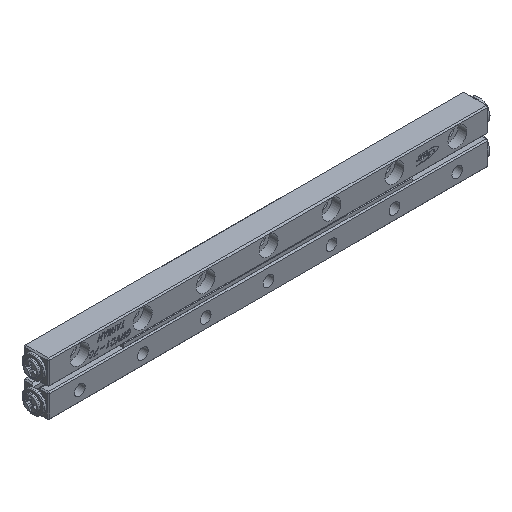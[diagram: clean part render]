
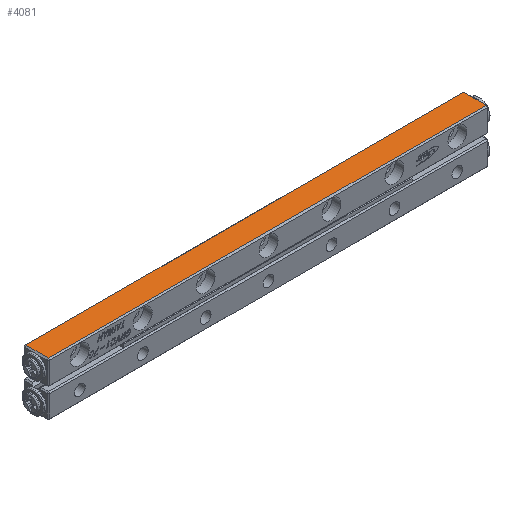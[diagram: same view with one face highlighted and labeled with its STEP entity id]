
A CAD part, isometric view. The second image highlights one B-rep face of the part: STEP entity #4081.
In plain terms, the highlighted planar face has unit normal (0, 0, 1) as drawn and (0, 0, -1) by its records, which use the part's own axes.
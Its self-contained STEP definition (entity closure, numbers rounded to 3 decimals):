
#2118 = ORIENTED_EDGE ( 'NONE', *, *, #13364, .T. ) ;
#2149 = EDGE_CURVE ( 'NONE', #15363, #10688, #17646, .T. ) ;
#2830 = LINE ( 'NONE', #10490, #9461 ) ;
#3154 = CARTESIAN_POINT ( 'NONE',  ( 34.8, -2., 0. ) ) ;
#3647 = DIRECTION ( 'NONE',  ( 0., 0., -1. ) ) ;
#4081 = ADVANCED_FACE ( 'NONE', ( #12951 ), #12822, .T. ) ;
#4162 = EDGE_CURVE ( 'NONE', #22047, #7645, #9432, .T. ) ;
#7130 = VECTOR ( 'NONE', #22155, 1000. ) ;
#7645 = VERTEX_POINT ( 'NONE', #13138 ) ;
#8603 = DIRECTION ( 'NONE',  ( 1., 0., 0. ) ) ;
#8680 = ORIENTED_EDGE ( 'NONE', *, *, #4162, .T. ) ;
#8878 = VECTOR ( 'NONE', #11227, 1000. ) ;
#9432 = LINE ( 'NONE', #16718, #23153 ) ;
#9461 = VECTOR ( 'NONE', #8603, 1000. ) ;
#10490 = CARTESIAN_POINT ( 'NONE',  ( -35., 1.8, 0. ) ) ;
#10688 = VERTEX_POINT ( 'NONE', #13747 ) ;
#11227 = DIRECTION ( 'NONE',  ( -1., 0., 0. ) ) ;
#11848 = EDGE_LOOP ( 'NONE', ( #14701, #24155, #2118, #8680 ) ) ;
#11981 = CARTESIAN_POINT ( 'NONE',  ( -34.8, -1.8, 0. ) ) ;
#12822 = PLANE ( 'NONE',  #21932 ) ;
#12951 = FACE_OUTER_BOUND ( 'NONE', #11848, .T. ) ;
#13138 = CARTESIAN_POINT ( 'NONE',  ( -34.8, 1.8, 0. ) ) ;
#13364 = EDGE_CURVE ( 'NONE', #10688, #22047, #15487, .T. ) ;
#13747 = CARTESIAN_POINT ( 'NONE',  ( 34.8, -1.8, 0. ) ) ;
#14701 = ORIENTED_EDGE ( 'NONE', *, *, #16195, .T. ) ;
#14837 = DIRECTION ( 'NONE',  ( 0., 1., 0. ) ) ;
#15080 = DIRECTION ( 'NONE',  ( 0., 1., 0. ) ) ;
#15203 = CARTESIAN_POINT ( 'NONE',  ( -35., -2., 0. ) ) ;
#15363 = VERTEX_POINT ( 'NONE', #19148 ) ;
#15487 = LINE ( 'NONE', #19262, #8878 ) ;
#16195 = EDGE_CURVE ( 'NONE', #7645, #15363, #2830, .T. ) ;
#16718 = CARTESIAN_POINT ( 'NONE',  ( -34.8, 2., 0. ) ) ;
#17646 = LINE ( 'NONE', #3154, #7130 ) ;
#19148 = CARTESIAN_POINT ( 'NONE',  ( 34.8, 1.8, 0. ) ) ;
#19262 = CARTESIAN_POINT ( 'NONE',  ( -35., -1.8, 0. ) ) ;
#21932 = AXIS2_PLACEMENT_3D ( 'NONE', #15203, #3647, #15080 ) ;
#22047 = VERTEX_POINT ( 'NONE', #11981 ) ;
#22155 = DIRECTION ( 'NONE',  ( 0., -1., 0. ) ) ;
#23153 = VECTOR ( 'NONE', #14837, 1000. ) ;
#24155 = ORIENTED_EDGE ( 'NONE', *, *, #2149, .T. ) ;
